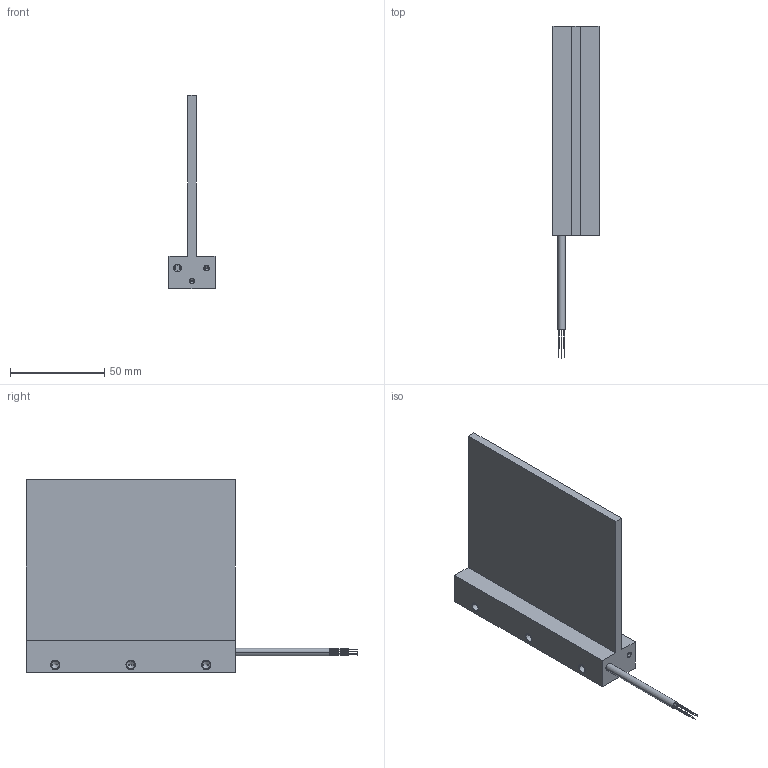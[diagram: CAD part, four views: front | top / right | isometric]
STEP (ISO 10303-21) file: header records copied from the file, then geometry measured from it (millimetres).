
FILE_DESCRIPTION((''),'2;1');
FILE_NAME('IL06-075','2006-04-05T',('saurabh.singhal'),('Kollmorgen'),'PRO/ENGINEER BY PARAMETRIC TECHNOLOGY CORPORATION, 2005310','PRO/ENGINEER BY PARAMETRIC TECHNOLOGY CORPORATION, 2005310','');
FILE_SCHEMA(('CONFIG_CONTROL_DESIGN'));
Length unit declared in the file: millimetre
Products named in the file (1): IL06-075
Bounding box: 24.4 x 175.8 x 102.3 mm (x, y, z)
Volume: 87369.3 mm3; surface area: 32142.1 mm2
Topology: 1 solids, 13 shells, 133 faces, 318 edges, 200 vertices
Faces by surface type: cylinder 74, plane 35, cone 24
Entity records: 3787 total; most frequent: DIRECTION 734, CARTESIAN_POINT 628, ORIENTED_EDGE 540, AXIS2_PLACEMENT_3D 306, EDGE_CURVE 294, VERTEX_POINT 200, CIRCLE 172, EDGE_LOOP 170
